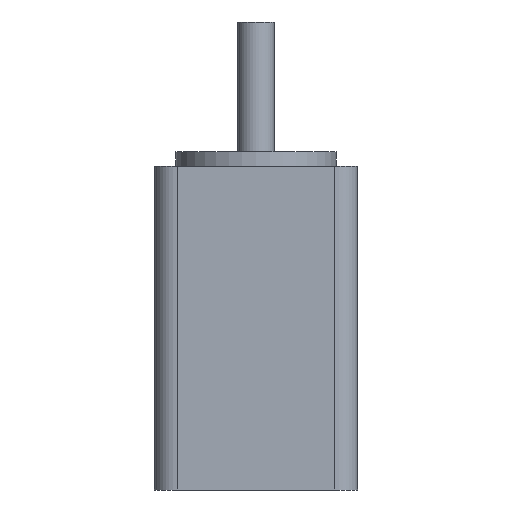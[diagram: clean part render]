
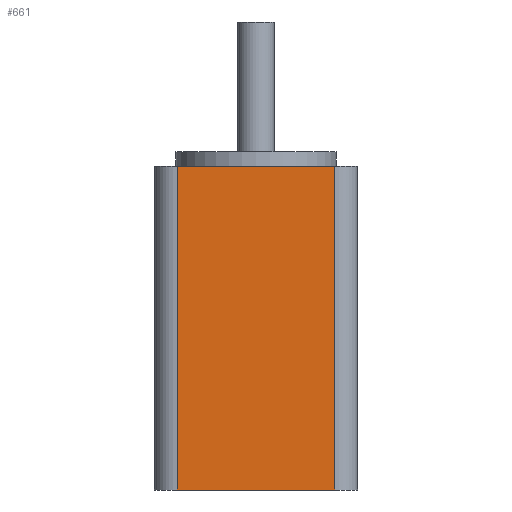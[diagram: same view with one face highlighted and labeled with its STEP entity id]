
A CAD part, front view. The second image highlights one B-rep face of the part: STEP entity #661.
In plain terms, the highlighted planar face has unit normal (0, -1, 0).
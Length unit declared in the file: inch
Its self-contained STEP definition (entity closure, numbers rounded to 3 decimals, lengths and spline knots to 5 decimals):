
#603=CARTESIAN_POINT('',(-0.425,-0.55,0.0));
#604=VERTEX_POINT('',#603);
#612=CARTESIAN_POINT('',(-0.425,-0.55,1.75));
#613=VERTEX_POINT('',#612);
#614=CARTESIAN_POINT('',(-0.425,-0.55,1.75));
#615=DIRECTION('',(0.0,0.0,-1.0));
#616=VECTOR('',#615,1.75);
#617=LINE('',#614,#616);
#618=EDGE_CURVE('',#613,#604,#617,.T.);
#631=CARTESIAN_POINT('',(-0.425,-0.55,1.75));
#632=DIRECTION('',(0.0,-1.0,0.0));
#633=DIRECTION('',(0.0,0.0,-1.0));
#634=AXIS2_PLACEMENT_3D('',#631,#632,#633);
#635=PLANE('',#634);
#636=CARTESIAN_POINT('',(0.425,-0.55,0.0));
#637=VERTEX_POINT('',#636);
#638=CARTESIAN_POINT('',(-0.425,-0.55,0.0));
#639=DIRECTION('',(1.0,0.0,0.0));
#640=VECTOR('',#639,0.85);
#641=LINE('',#638,#640);
#642=EDGE_CURVE('',#604,#637,#641,.T.);
#643=ORIENTED_EDGE('',*,*,#642,.T.);
#644=CARTESIAN_POINT('',(0.425,-0.55,1.75));
#645=VERTEX_POINT('',#644);
#646=CARTESIAN_POINT('',(0.425,-0.55,1.75));
#647=DIRECTION('',(0.0,0.0,-1.0));
#648=VECTOR('',#647,1.75);
#649=LINE('',#646,#648);
#650=EDGE_CURVE('',#645,#637,#649,.T.);
#651=ORIENTED_EDGE('',*,*,#650,.F.);
#652=CARTESIAN_POINT('',(-0.425,-0.55,1.75));
#653=DIRECTION('',(1.0,0.0,0.0));
#654=VECTOR('',#653,0.85);
#655=LINE('',#652,#654);
#656=EDGE_CURVE('',#613,#645,#655,.T.);
#657=ORIENTED_EDGE('',*,*,#656,.F.);
#658=ORIENTED_EDGE('',*,*,#618,.T.);
#659=EDGE_LOOP('',(#643,#651,#657,#658));
#660=FACE_OUTER_BOUND('',#659,.T.);
#661=ADVANCED_FACE('',(#660),#635,.T.);
